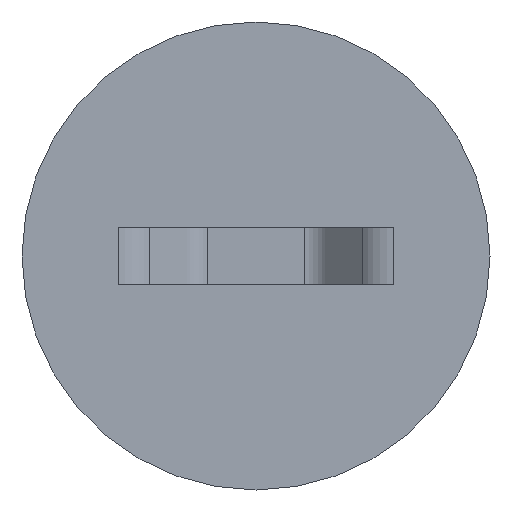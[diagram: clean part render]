
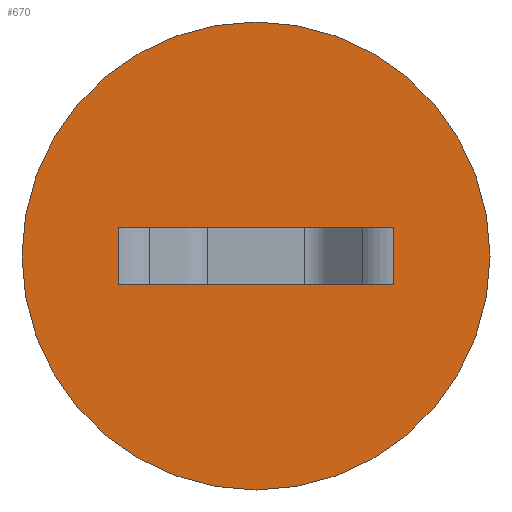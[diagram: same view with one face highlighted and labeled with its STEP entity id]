
A CAD part, front view. The second image highlights one B-rep face of the part: STEP entity #670.
In plain terms, the highlighted planar face has unit normal (0, -1, 0).
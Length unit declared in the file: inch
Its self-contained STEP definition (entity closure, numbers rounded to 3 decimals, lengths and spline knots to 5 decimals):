
#1 = DIRECTION ( 'NONE',  ( 0., 0., 1. ) ) ;
#11 = VERTEX_POINT ( 'NONE', #26 ) ;
#26 = CARTESIAN_POINT ( 'NONE',  ( -0.36722, -0.039, 0. ) ) ;
#30 = EDGE_LOOP ( 'NONE', ( #735, #536 ) ) ;
#35 = EDGE_CURVE ( 'NONE', #268, #569, #649, .T. ) ;
#37 = VECTOR ( 'NONE', #616, 39.37008 ) ;
#40 = ORIENTED_EDGE ( 'NONE', *, *, #35, .F. ) ;
#68 = LINE ( 'NONE', #742, #763 ) ;
#72 = DIRECTION ( 'NONE',  ( 1., 0., 0. ) ) ;
#80 = CARTESIAN_POINT ( 'NONE',  ( -0.36722, -0.039, -0.154 ) ) ;
#93 = CARTESIAN_POINT ( 'NONE',  ( 0.36722, -0.039, -0.154 ) ) ;
#102 = CIRCLE ( 'NONE', #701, 0.625 ) ;
#113 = ORIENTED_EDGE ( 'NONE', *, *, #234, .T. ) ;
#159 = ORIENTED_EDGE ( 'NONE', *, *, #292, .F. ) ;
#163 = AXIS2_PLACEMENT_3D ( 'NONE', #482, #426, #278 ) ;
#177 = EDGE_CURVE ( 'NONE', #569, #11, #545, .T. ) ;
#189 = CARTESIAN_POINT ( 'NONE',  ( -0.625, -0.039, -0.154 ) ) ;
#193 = DIRECTION ( 'NONE',  ( 0., -1., 0. ) ) ;
#229 = EDGE_LOOP ( 'NONE', ( #746, #40, #159, #113 ) ) ;
#234 = EDGE_CURVE ( 'NONE', #711, #11, #383, .T. ) ;
#263 = AXIS2_PLACEMENT_3D ( 'NONE', #189, #574, #626 ) ;
#268 = VERTEX_POINT ( 'NONE', #442 ) ;
#278 = DIRECTION ( 'NONE',  ( 0., 0., -1. ) ) ;
#283 = CARTESIAN_POINT ( 'NONE',  ( 0.36722, -0.039, 0. ) ) ;
#292 = EDGE_CURVE ( 'NONE', #711, #268, #68, .T. ) ;
#317 = CARTESIAN_POINT ( 'NONE',  ( 0., -0.039, -0.077 ) ) ;
#335 = DIRECTION ( 'NONE',  ( 0., 0., 1. ) ) ;
#339 = EDGE_CURVE ( 'NONE', #421, #516, #102, .T. ) ;
#383 = LINE ( 'NONE', #80, #734 ) ;
#421 = VERTEX_POINT ( 'NONE', #759 ) ;
#426 = DIRECTION ( 'NONE',  ( 0., -1., 0. ) ) ;
#442 = CARTESIAN_POINT ( 'NONE',  ( 0.36722, -0.039, -0.154 ) ) ;
#446 = FACE_BOUND ( 'NONE', #229, .T. ) ;
#449 = CIRCLE ( 'NONE', #163, 0.625 ) ;
#482 = CARTESIAN_POINT ( 'NONE',  ( 0., -0.039, -0.077 ) ) ;
#494 = FACE_OUTER_BOUND ( 'NONE', #30, .T. ) ;
#516 = VERTEX_POINT ( 'NONE', #611 ) ;
#536 = ORIENTED_EDGE ( 'NONE', *, *, #339, .T. ) ;
#542 = EDGE_CURVE ( 'NONE', #516, #421, #449, .T. ) ;
#545 = LINE ( 'NONE', #727, #37 ) ;
#569 = VERTEX_POINT ( 'NONE', #283 ) ;
#574 = DIRECTION ( 'NONE',  ( 0., -1., 0. ) ) ;
#611 = CARTESIAN_POINT ( 'NONE',  ( 0., -0.039, -0.702 ) ) ;
#616 = DIRECTION ( 'NONE',  ( -1., 0., 0. ) ) ;
#626 = DIRECTION ( 'NONE',  ( 0., 0., -1. ) ) ;
#649 = LINE ( 'NONE', #93, #770 ) ;
#670 = ADVANCED_FACE ( 'NONE', ( #446, #494 ), #679, .T. ) ;
#679 = PLANE ( 'NONE',  #263 ) ;
#686 = DIRECTION ( 'NONE',  ( 0., 0., -1. ) ) ;
#701 = AXIS2_PLACEMENT_3D ( 'NONE', #317, #193, #686 ) ;
#711 = VERTEX_POINT ( 'NONE', #741 ) ;
#727 = CARTESIAN_POINT ( 'NONE',  ( -0.36722, -0.039, 0. ) ) ;
#734 = VECTOR ( 'NONE', #1, 39.37008 ) ;
#735 = ORIENTED_EDGE ( 'NONE', *, *, #542, .T. ) ;
#741 = CARTESIAN_POINT ( 'NONE',  ( -0.36722, -0.039, -0.154 ) ) ;
#742 = CARTESIAN_POINT ( 'NONE',  ( -0.36722, -0.039, -0.154 ) ) ;
#746 = ORIENTED_EDGE ( 'NONE', *, *, #177, .F. ) ;
#759 = CARTESIAN_POINT ( 'NONE',  ( 0., -0.039, 0.548 ) ) ;
#763 = VECTOR ( 'NONE', #72, 39.37008 ) ;
#770 = VECTOR ( 'NONE', #335, 39.37008 ) ;
